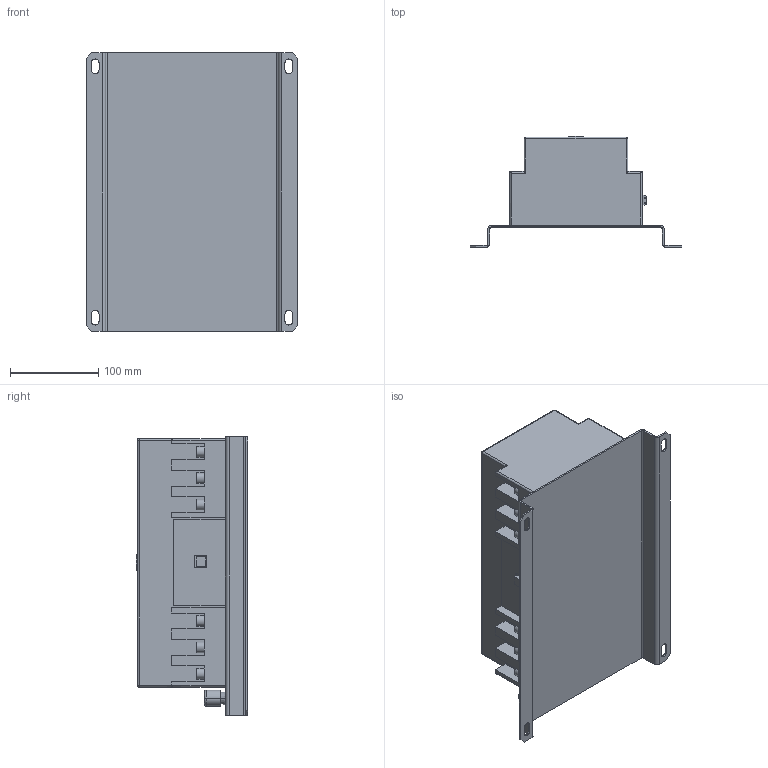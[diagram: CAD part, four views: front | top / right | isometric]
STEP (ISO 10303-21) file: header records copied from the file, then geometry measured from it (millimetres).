
FILE_DESCRIPTION (( 'STEP AP203' ), '1' );
FILE_NAME ('Óñòðîéñòâî ÀÂÐ ÒÑÌå-100_100À 3ð.STEP', '2018-05-23T08:03:01', ( '' ), ( '' ), 'SwSTEP 2.0', 'SolidWorks 2017', '' );
FILE_SCHEMA (( 'CONFIG_CONTROL_DESIGN' ));
Length unit declared in the file: millimetre
Products named in the file (1): Óñòðîéñòâî ÀÂÐ ÒÑÌå-100_100À 3ð
Bounding box: 240 x 126 x 316 mm (x, y, z)
Volume: 3842607.2 mm3; surface area: 292314 mm2
Topology: 1 solids, 1 shells, 382 faces, 960 edges, 620 vertices
Faces by surface type: plane 276, cylinder 70, torus 28, cone 4, sphere 4
Entity records: 11365 total; most frequent: CARTESIAN_POINT 1983, ORIENTED_EDGE 1912, DIRECTION 1902, EDGE_CURVE 956, LINE 760, VECTOR 760, VERTEX_POINT 620, AXIS2_PLACEMENT_3D 571
